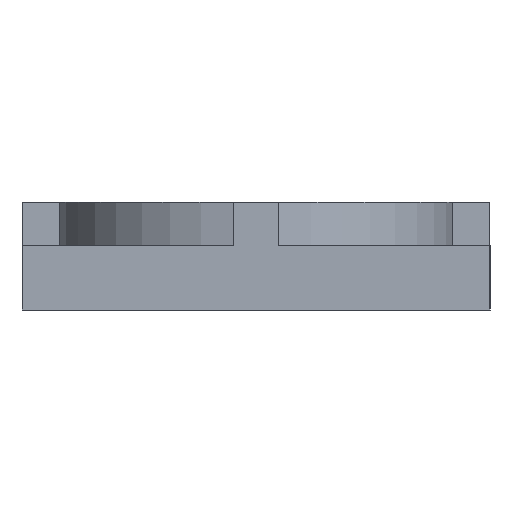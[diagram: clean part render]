
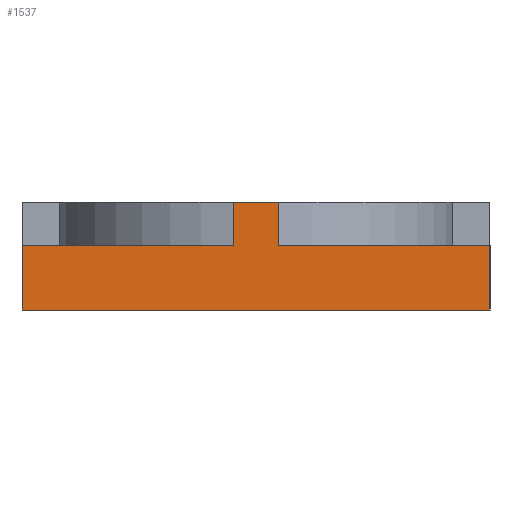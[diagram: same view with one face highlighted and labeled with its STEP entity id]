
A CAD part, left-side view. The second image highlights one B-rep face of the part: STEP entity #1537.
In plain terms, the highlighted planar face has unit normal (-1, 0, 0).
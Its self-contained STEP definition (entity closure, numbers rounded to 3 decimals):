
#84 = DIRECTION ( 'NONE',  ( 0., 0., -1. ) ) ;
#168 = CARTESIAN_POINT ( 'NONE',  ( -80., -65., 0. ) ) ;
#171 = ORIENTED_EDGE ( 'NONE', *, *, #1419, .T. ) ;
#182 = CARTESIAN_POINT ( 'NONE',  ( -80., 6.25, 18. ) ) ;
#287 = DIRECTION ( 'NONE',  ( 0., -1., 0. ) ) ;
#330 = LINE ( 'NONE', #1928, #1148 ) ;
#362 = EDGE_CURVE ( 'NONE', #2207, #667, #330, .T. ) ;
#368 = CARTESIAN_POINT ( 'NONE',  ( -80., -65., 18. ) ) ;
#554 = ORIENTED_EDGE ( 'NONE', *, *, #1919, .F. ) ;
#597 = CARTESIAN_POINT ( 'NONE',  ( -80., 65., 18. ) ) ;
#614 = CARTESIAN_POINT ( 'NONE',  ( -80., -6.25, 18. ) ) ;
#627 = DIRECTION ( 'NONE',  ( 0., 0., -1. ) ) ;
#648 = CARTESIAN_POINT ( 'NONE',  ( -80., 6.25, 30. ) ) ;
#655 = CARTESIAN_POINT ( 'NONE',  ( -80., -65., 18. ) ) ;
#667 = VERTEX_POINT ( 'NONE', #2970 ) ;
#696 = VECTOR ( 'NONE', #989, 1000. ) ;
#781 = LINE ( 'NONE', #597, #1426 ) ;
#899 = VECTOR ( 'NONE', #2545, 1000. ) ;
#934 = CARTESIAN_POINT ( 'NONE',  ( -80., 65., 18. ) ) ;
#937 = VERTEX_POINT ( 'NONE', #2766 ) ;
#976 = LINE ( 'NONE', #2197, #696 ) ;
#989 = DIRECTION ( 'NONE',  ( 0., -1., 0. ) ) ;
#1116 = CARTESIAN_POINT ( 'NONE',  ( -80., -6.25, 30. ) ) ;
#1117 = VERTEX_POINT ( 'NONE', #655 ) ;
#1130 = FACE_OUTER_BOUND ( 'NONE', #1761, .T. ) ;
#1148 = VECTOR ( 'NONE', #1447, 1000. ) ;
#1167 = DIRECTION ( 'NONE',  ( 0., 0., -1. ) ) ;
#1380 = ORIENTED_EDGE ( 'NONE', *, *, #362, .F. ) ;
#1414 = ORIENTED_EDGE ( 'NONE', *, *, #1692, .T. ) ;
#1419 = EDGE_CURVE ( 'NONE', #2207, #3145, #1796, .T. ) ;
#1426 = VECTOR ( 'NONE', #287, 1000. ) ;
#1443 = VERTEX_POINT ( 'NONE', #614 ) ;
#1447 = DIRECTION ( 'NONE',  ( 0., -1., 0. ) ) ;
#1508 = LINE ( 'NONE', #2163, #3032 ) ;
#1537 = ADVANCED_FACE ( 'NONE', ( #1130 ), #1653, .F. ) ;
#1594 = DIRECTION ( 'NONE',  ( 0., 0., -1. ) ) ;
#1653 = PLANE ( 'NONE',  #1758 ) ;
#1655 = LINE ( 'NONE', #1116, #1767 ) ;
#1692 = EDGE_CURVE ( 'NONE', #1737, #937, #1981, .T. ) ;
#1737 = VERTEX_POINT ( 'NONE', #1810 ) ;
#1758 = AXIS2_PLACEMENT_3D ( 'NONE', #934, #2797, #1594 ) ;
#1761 = EDGE_LOOP ( 'NONE', ( #2835, #554, #2846, #2503, #1380, #171, #2752, #1414 ) ) ;
#1767 = VECTOR ( 'NONE', #1167, 1000. ) ;
#1796 = LINE ( 'NONE', #648, #2625 ) ;
#1810 = CARTESIAN_POINT ( 'NONE',  ( -80., 65., 18. ) ) ;
#1869 = VECTOR ( 'NONE', #84, 1000. ) ;
#1919 = EDGE_CURVE ( 'NONE', #1117, #2764, #3022, .T. ) ;
#1928 = CARTESIAN_POINT ( 'NONE',  ( -80., 6.25, 30. ) ) ;
#1981 = LINE ( 'NONE', #2942, #1869 ) ;
#1982 = DIRECTION ( 'NONE',  ( 0., -1., 0. ) ) ;
#2036 = EDGE_CURVE ( 'NONE', #937, #2764, #976, .T. ) ;
#2163 = CARTESIAN_POINT ( 'NONE',  ( -80., 65., 18. ) ) ;
#2197 = CARTESIAN_POINT ( 'NONE',  ( -80., 65., 0. ) ) ;
#2207 = VERTEX_POINT ( 'NONE', #2495 ) ;
#2495 = CARTESIAN_POINT ( 'NONE',  ( -80., 6.25, 30. ) ) ;
#2503 = ORIENTED_EDGE ( 'NONE', *, *, #2697, .F. ) ;
#2545 = DIRECTION ( 'NONE',  ( 0., 0., -1. ) ) ;
#2625 = VECTOR ( 'NONE', #627, 1000. ) ;
#2697 = EDGE_CURVE ( 'NONE', #667, #1443, #1655, .T. ) ;
#2752 = ORIENTED_EDGE ( 'NONE', *, *, #2991, .F. ) ;
#2764 = VERTEX_POINT ( 'NONE', #168 ) ;
#2766 = CARTESIAN_POINT ( 'NONE',  ( -80., 65., 0. ) ) ;
#2797 = DIRECTION ( 'NONE',  ( 1., 0., 0. ) ) ;
#2830 = EDGE_CURVE ( 'NONE', #1443, #1117, #1508, .T. ) ;
#2835 = ORIENTED_EDGE ( 'NONE', *, *, #2036, .T. ) ;
#2846 = ORIENTED_EDGE ( 'NONE', *, *, #2830, .F. ) ;
#2942 = CARTESIAN_POINT ( 'NONE',  ( -80., 65., 18. ) ) ;
#2970 = CARTESIAN_POINT ( 'NONE',  ( -80., -6.25, 30. ) ) ;
#2991 = EDGE_CURVE ( 'NONE', #1737, #3145, #781, .T. ) ;
#3022 = LINE ( 'NONE', #368, #899 ) ;
#3032 = VECTOR ( 'NONE', #1982, 1000. ) ;
#3145 = VERTEX_POINT ( 'NONE', #182 ) ;
